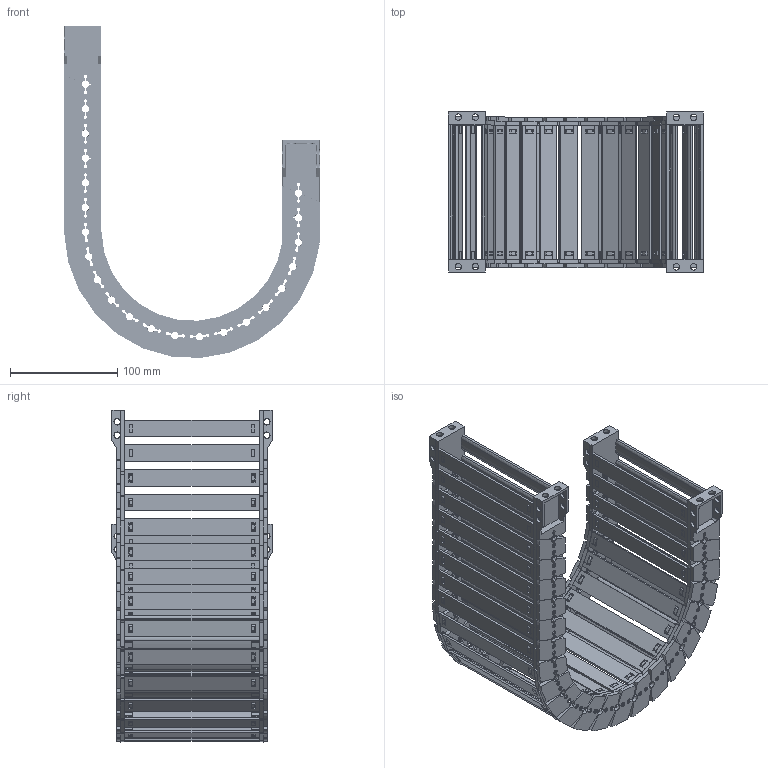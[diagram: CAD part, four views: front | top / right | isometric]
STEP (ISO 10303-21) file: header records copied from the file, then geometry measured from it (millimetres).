
FILE_DESCRIPTION(/* description */ (''),/* implementation_level */ '2;1');
FILE_NAME(/* name */ 'JY28-125-R100.stp',/* time_stamp */ '2026-06-03T18:35:23+08:00',/* author */ (''),/* organization */ (''),/* preprocessor_version */ 'ST-DEVELOPER v19.4',/* originating_system */ 'SIEMENS PLM Software NX2306.5001',/* authorisation */ '');
FILE_SCHEMA (('AP203_CONFIGURATION_CONTROLLED_3D_DESIGN_OF_MECHANICAL_PARTS_AND_ASSEMBLIES_MIM_LF { 1 0 10303 403 2 1 2}'));
Products named in the file (1): 简化图纸_objects
Bounding box: 238.21 x 149.5 x 309.61 mm (x, y, z)
Volume: 564629.7 mm3; surface area: 406298.1 mm2
Topology: 86 solids, 86 shells, 7166 faces, 20384 edges, 13324 vertices
Faces by surface type: plane 4694, cone 1300, cylinder 1128, bspline 42, torus 2
Full cylindrical faces by diameter (mm): 6 x24
Entity records: 242416 total; most frequent: CARTESIAN_POINT 53852, ORIENTED_EDGE 40676, DIRECTION 38192, EDGE_CURVE 20338, LINE 13462, VECTOR 13462, VERTEX_POINT 13302, AXIS2_PLACEMENT_3D 12365
